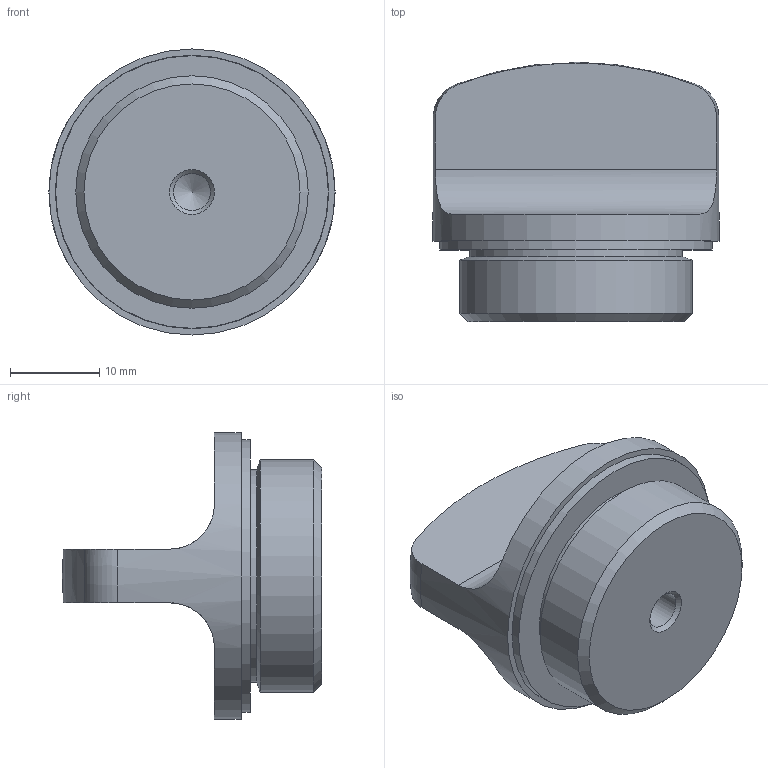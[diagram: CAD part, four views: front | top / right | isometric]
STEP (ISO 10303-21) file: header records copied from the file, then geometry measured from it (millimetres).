
FILE_DESCRIPTION( ( 'STEP AP203' ), '1' );
FILE_NAME( 'C:/Temp/Ganter_Step_05_03_2020/data/3_5/gn441/Threaded plug GN 441-32-M26x1,5-1-SW.stp', '2020-03-12T13:34:49', ( 'License CC BY-ND 4.0' ), ( 'CADENAS' ), ' ', 'PARTsolutions', ' ' );
FILE_SCHEMA( ( 'CONFIG_CONTROL_DESIGN' ) );
Length unit declared in the file: millimetre
Products named in the file (1): _Threaded plug GN 441-32-M26x1,5-1-SW
Bounding box: 32 x 29 x 32 mm (x, y, z)
Volume: 10345.1 mm3; surface area: 4588.4 mm2
Topology: 1 solids, 1 shells, 29 faces, 63 edges, 41 vertices
Faces by surface type: cylinder 11, plane 11, cone 4, torus 2, sphere 1
Full cylindrical faces by diameter (mm): 4.134 x1, 23.8 x1, 23.95 x1, 26 x1, 27.5 x1, 27.6 x1, 30.5 x1, 30.6 x1, 32 x1
Entity records: 854 total; most frequent: CARTESIAN_POINT 252, DIRECTION 122, ORIENTED_EDGE 86, AXIS2_PLACEMENT_3D 57, EDGE_LOOP 48, EDGE_CURVE 43, FACE_OUTER_BOUND 38, VERTEX_POINT 37
